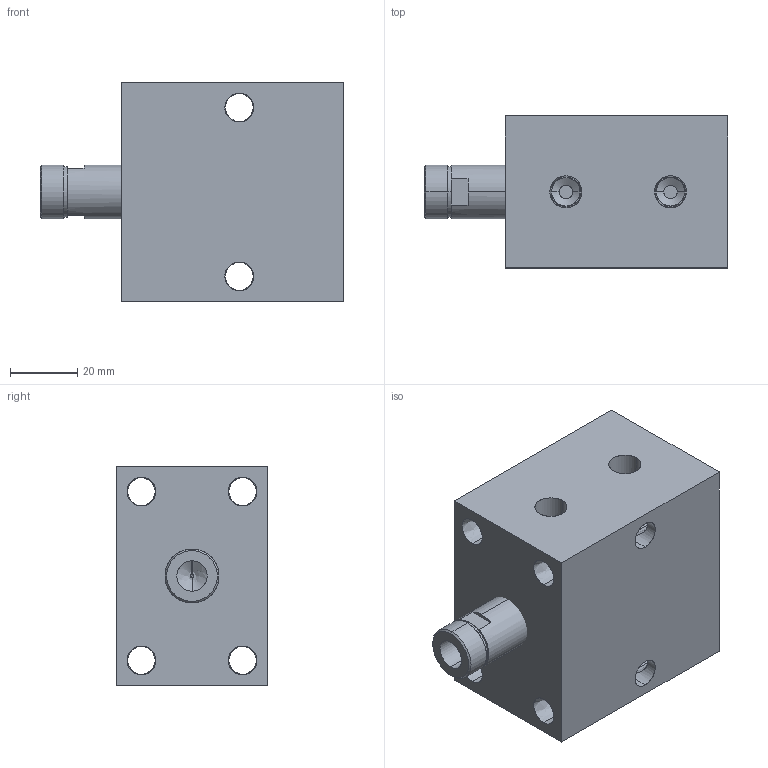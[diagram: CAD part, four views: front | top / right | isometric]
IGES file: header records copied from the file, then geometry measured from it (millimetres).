
Start section: SolidWorks IGES file using analytic representation for surfaces
Global section: file name: C:\Documents and Settings\rajib\Desktop\Rajib\BLOCK CYLINDER HYDRAULIC\0201-0206\0202.IGS; native system: SolidWorks 2007; preprocessor: SolidWorks 2007; author: rajib; date: 110121.094205; units: millimetre
Bounding box: 90 x 45 x 65 mm (x, y, z)
Surface area: 32991.4 mm2 (no closed solid volume)
Topology: 0 solids, 0 shells, 80 faces, 1752 edges, 1750 vertices
Faces by surface type: revolution 58, bspline 22
